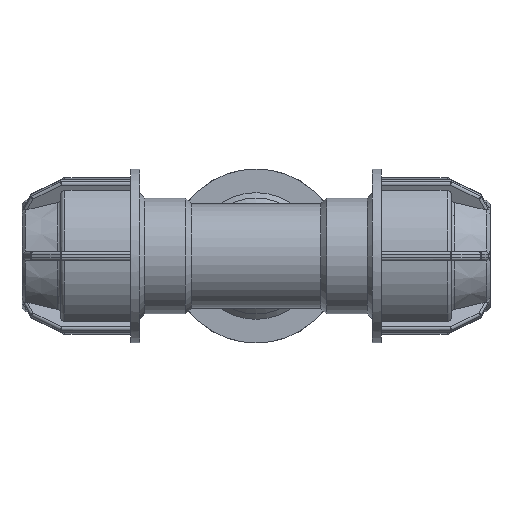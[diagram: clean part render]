
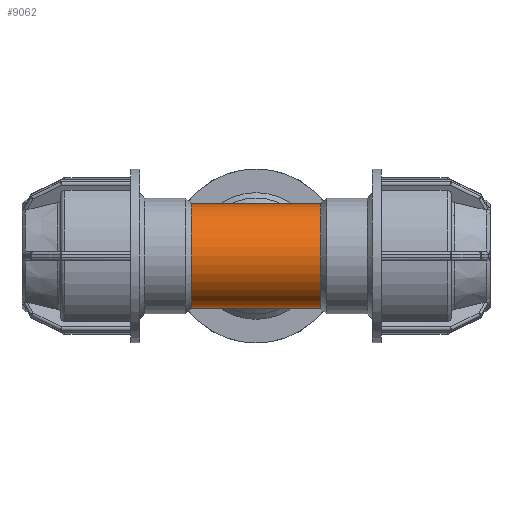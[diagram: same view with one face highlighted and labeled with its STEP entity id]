
A CAD part, front view. The second image highlights one B-rep face of the part: STEP entity #9062.
In plain terms, the highlighted cylindrical face has radius 12.6 mm (diameter 25.2 mm), a full revolution.
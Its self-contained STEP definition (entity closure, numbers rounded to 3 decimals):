
#15=ELLIPSE('',#9987,17.819,12.6);
#16=ELLIPSE('',#9988,17.819,12.6);
#1920=CYLINDRICAL_SURFACE('',#10008,12.6);
#2009=FACE_BOUND('',#3058,.T.);
#2010=FACE_BOUND('',#3059,.T.);
#2426=FACE_OUTER_BOUND('',#3057,.T.);
#3057=EDGE_LOOP('',(#7731));
#3058=EDGE_LOOP('',(#7732));
#3059=EDGE_LOOP('',(#7733,#7734));
#3271=CIRCLE('',#9264,12.6);
#3277=CIRCLE('',#9274,12.6);
#3775=VERTEX_POINT('',#13134);
#3781=VERTEX_POINT('',#13150);
#4300=VERTEX_POINT('',#16154);
#4301=VERTEX_POINT('',#16155);
#4571=EDGE_CURVE('',#3775,#3775,#3271,.T.);
#4577=EDGE_CURVE('',#3781,#3781,#3277,.T.);
#5467=EDGE_CURVE('',#4300,#4301,#15,.T.);
#5468=EDGE_CURVE('',#4300,#4301,#16,.T.);
#7731=ORIENTED_EDGE('',*,*,#4577,.F.);
#7732=ORIENTED_EDGE('',*,*,#4571,.F.);
#7733=ORIENTED_EDGE('',*,*,#5468,.T.);
#7734=ORIENTED_EDGE('',*,*,#5467,.F.);
#9062=ADVANCED_FACE('',(#2426,#2009,#2010),#1920,.T.);
#9264=AXIS2_PLACEMENT_3D('',#13135,#10376,#10377);
#9274=AXIS2_PLACEMENT_3D('',#13151,#10396,#10397);
#9987=AXIS2_PLACEMENT_3D('',#16156,#12182,#12183);
#9988=AXIS2_PLACEMENT_3D('',#16157,#12184,#12185);
#10008=AXIS2_PLACEMENT_3D('',#16185,#12224,#12225);
#10376=DIRECTION('center_axis',(1.,0.,0.));
#10377=DIRECTION('ref_axis',(0.,0.,-1.));
#10396=DIRECTION('center_axis',(-1.,0.,0.));
#10397=DIRECTION('ref_axis',(0.,0.,-1.));
#12182=DIRECTION('center_axis',(0.707,0.707,0.));
#12183=DIRECTION('ref_axis',(0.707,-0.707,0.));
#12184=DIRECTION('center_axis',(0.707,-0.707,0.));
#12185=DIRECTION('ref_axis',(-0.707,-0.707,0.));
#12224=DIRECTION('center_axis',(1.,0.,0.));
#12225=DIRECTION('ref_axis',(0.,1.,0.));
#13134=CARTESIAN_POINT('',(15.65,12.6,0.));
#13135=CARTESIAN_POINT('Origin',(15.65,0.,0.));
#13150=CARTESIAN_POINT('',(-15.65,-12.6,0.));
#13151=CARTESIAN_POINT('Origin',(-15.65,0.,0.));
#16154=CARTESIAN_POINT('',(0.,0.,-12.6));
#16155=CARTESIAN_POINT('',(0.,0.,12.6));
#16156=CARTESIAN_POINT('Origin',(0.,0.,0.));
#16157=CARTESIAN_POINT('Origin',(0.,0.,0.));
#16185=CARTESIAN_POINT('Origin',(7.825,0.,0.));
